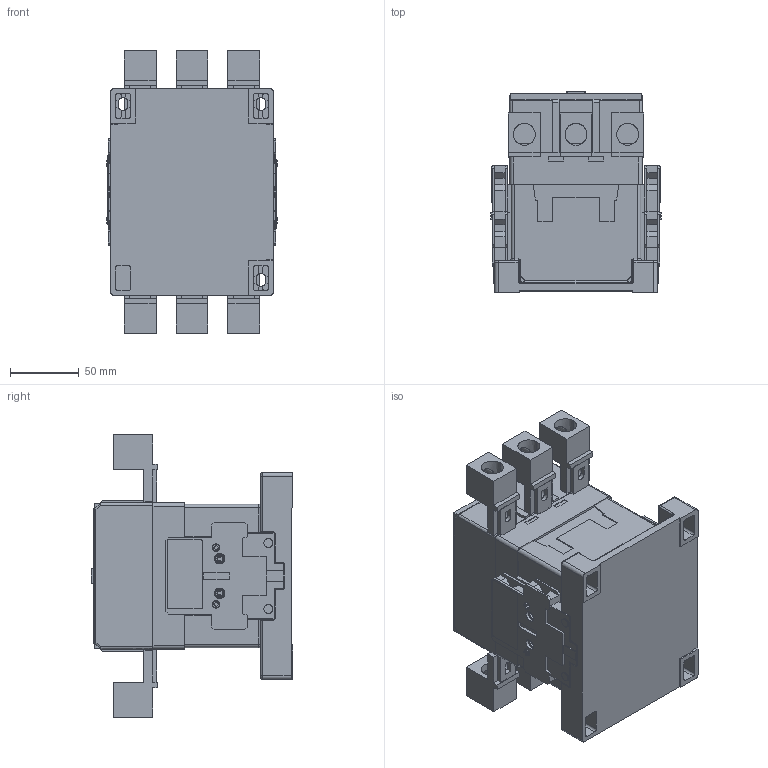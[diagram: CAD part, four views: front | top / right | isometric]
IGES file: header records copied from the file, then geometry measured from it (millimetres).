
Start section: SolidWorks IGES file using analytic representation for surfaces
Global section: file name: Q:\GROUPS\BR_SC_JGS_WA_TECNICO\ENG\Usuarios\Rodrigob\conversão\contatores\Produto\CWM112+LW1-S300\CWM112+LW1-S300.IGS; native system: SolidWorks 2012; preprocessor: SolidWorks 2012; author: rodrigob; date: 140529.071135; units: millimetre
Bounding box: 124.2 x 146 x 204.8 mm (x, y, z)
Surface area: 237131.9 mm2 (no closed solid volume)
Topology: 0 solids, 0 shells, 2245 faces, 22711 edges, 22709 vertices
Faces by surface type: bspline 1493, revolution 752
